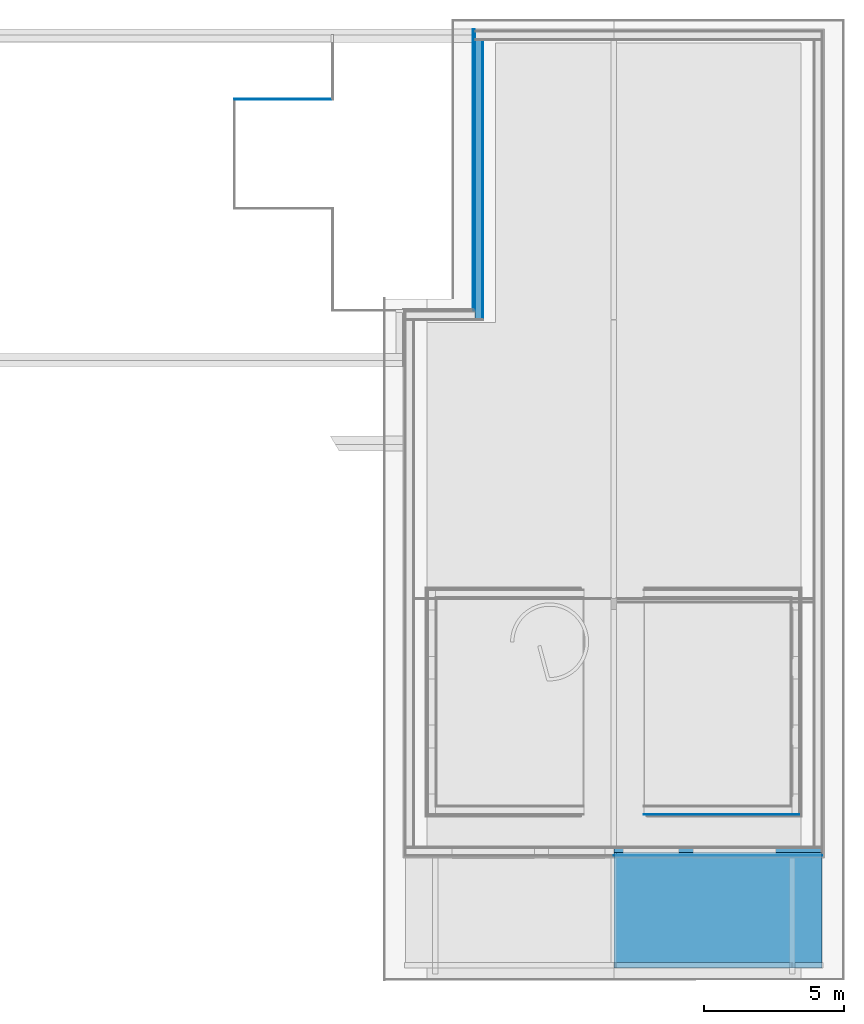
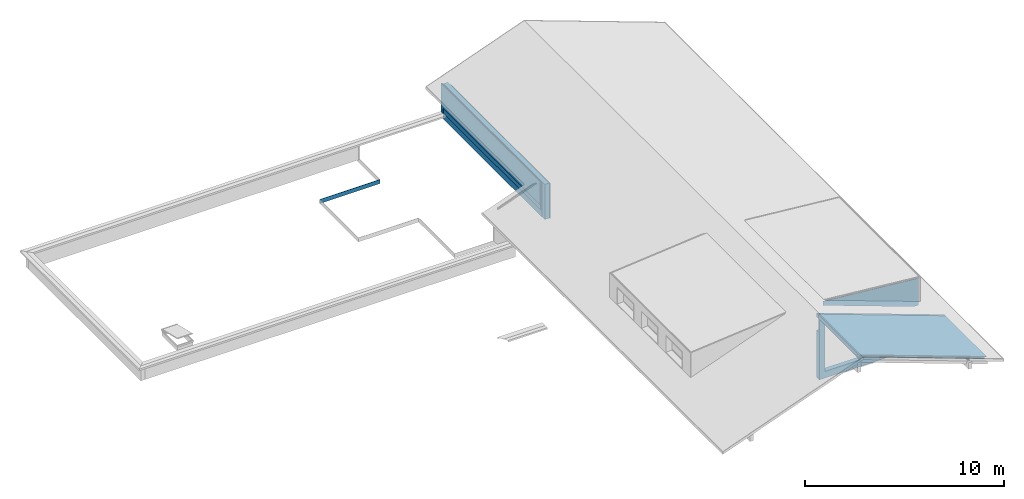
# One storey, part 7 of 12: 16 building element parts, 1 discrete accessory, 2 openings, 5 elements without a shape of their own.
"""IFC4 building model written with IfcOpenShell, lengths in millimetres."""

import ifcopenshell
import ifcopenshell.guid

model = None  # the IFC model being written
_history = None  # IfcOwnerHistory: only IFC2X3 demands one
_inside = {}  # id of a spatial element -> (the spatial element, [elements in it])
_under = {}  # id of a project, library or spatial element -> (it, [spatial elements below it])
_declared = {}  # id of a project -> (the project, [libraries it declares])
_typed = {}  # id of a type object -> (the type object, [elements of that type])
_made_of = {}  # id of a material, layer set ... -> (it, [elements and type objects made of it])


def new_model(schema):
    """Start an empty IFC model of exactly this schema.

    Asked for "IFC4X3", IfcOpenShell would pick the latest addendum, in which some entities
    have other attributes; the version numbers below select the first issue.
    IFC2X3 requires an IfcOwnerHistory on every rooted entity: one is made here for all.
    """
    global model, _history
    if schema == "IFC4X3":
        model = ifcopenshell.file(schema_version=(4, 3, 0, 0))
    else:
        model = ifcopenshell.file(schema=schema)
    _inside.clear()
    _under.clear()
    _declared.clear()
    _typed.clear()
    _made_of.clear()
    _history = None
    if model.schema == "IFC2X3":
        org = make("IfcOrganization", Name="unknown")
        user = make(
            "IfcPersonAndOrganization",
            ThePerson=make("IfcPerson", FamilyName="unknown"),
            TheOrganization=org,
        )
        app = make(
            "IfcApplication",
            ApplicationDeveloper=org,
            Version="unknown",
            ApplicationFullName="unknown",
            ApplicationIdentifier="unknown",
        )
        _history = make(
            "IfcOwnerHistory",
            OwningUser=user,
            OwningApplication=app,
            ChangeAction="ADDED",
            CreationDate=0,
        )
    return model


def make(cls, **values):
    """One entity of the class cls with the attributes given. An attribute that is None is left unset."""
    return model.create_entity(
        cls, **{name: value for name, value in values.items() if value is not None}
    )


def entity(cls, *values):
    """Any entity or typed value of the class cls, its attributes in the order of the schema. None: left unset."""
    e = model.create_entity(cls)
    for i, value in enumerate(values):
        if value is not None:
            e[i] = value
    return e


def rooted(cls, **values):
    """An entity with a GlobalId (a new one), such as an element, a storey or a relation."""
    return make(cls, GlobalId=ifcopenshell.guid.new(), OwnerHistory=_history, **values)


def si_unit(unit_type, name, prefix=None):
    """IfcSIUnit, for example si_unit("LENGTHUNIT", "METRE", prefix="MILLI")."""
    return make("IfcSIUnit", UnitType=unit_type, Prefix=prefix, Name=name)


def converted_unit(unit_type, name, factor, base, dimensions=None, offset=None):
    """IfcConversionBasedUnit, such as the inch: factor (a typed value) times the base unit."""
    return make(
        "IfcConversionBasedUnit"
        if offset is None
        else "IfcConversionBasedUnitWithOffset",
        ConversionOffset=offset,
        Dimensions=None
        if dimensions is None
        else entity("IfcDimensionalExponents", *dimensions),
        UnitType=unit_type,
        Name=name,
        ConversionFactor=make(
            "IfcMeasureWithUnit", ValueComponent=factor, UnitComponent=base
        ),
    )


def derived_unit(unit_type, elements):
    """IfcDerivedUnit: a product of units, each with its exponent."""
    return make(
        "IfcDerivedUnit",
        Elements=[
            make("IfcDerivedUnitElement", Unit=unit, Exponent=power)
            for unit, power in elements
        ],
        UnitType=unit_type,
    )


def assignment(units):
    """IfcUnitAssignment: the units of a project."""
    return None if units is None else make("IfcUnitAssignment", Units=units)


def point(xyz):
    """IfcCartesianPoint."""
    return None if xyz is None else make("IfcCartesianPoint", Coordinates=xyz)


def direction(xyz):
    """IfcDirection."""
    return None if xyz is None else make("IfcDirection", DirectionRatios=xyz)


def frame(location, z_axis=None, x_axis=None):
    """IfcAxis2Placement3D, a coordinate frame: its origin and axes. An axis left out is left unset."""
    return make(
        "IfcAxis2Placement3D",
        Location=point(location),
        Axis=direction(z_axis),
        RefDirection=direction(x_axis),
    )


def origin_with_axes():
    """The frame at (0, 0, 0) with the z axis (0, 0, 1) and the x axis (1, 0, 0) written out."""
    return frame((0.0, 0.0, 0.0), z_axis=(0.0, 0.0, 1.0), x_axis=(1.0, 0.0, 0.0))


def place(relative_to, where):
    """IfcLocalPlacement: puts the frame where relative to a parent placement (None: the world)."""
    return make(
        "IfcLocalPlacement", PlacementRelTo=relative_to, RelativePlacement=where
    )


def context(
    kind, dimensions, precision=None, world=None, true_north=None, identifier=None
):
    """IfcGeometricRepresentationContext, for example the 3D "Model" context."""
    return make(
        "IfcGeometricRepresentationContext",
        ContextIdentifier=identifier,
        ContextType=kind,
        CoordinateSpaceDimension=dimensions,
        Precision=precision,
        WorldCoordinateSystem=world,
        TrueNorth=true_north,
    )


def subcontext(parent, identifier, kind, view, scale=None):
    """IfcGeometricRepresentationSubContext, for example "Body" below "Model"."""
    return make(
        "IfcGeometricRepresentationSubContext",
        ContextIdentifier=identifier,
        ContextType=kind,
        ParentContext=parent,
        TargetScale=scale,
        TargetView=view,
    )


def project(units=None, contexts=None):
    """IfcProject with its units and contexts."""
    return rooted(
        "IfcProject",
        Name="project",
        RepresentationContexts=contexts,
        UnitsInContext=assignment(units),
    )


def spatial(cls, under=None, at=None, **own):
    """A site, building, storey or space (cls), placed at a placement, below another one or the project."""
    s = rooted(cls, ObjectPlacement=at, **own)
    if under is not None:
        _under.setdefault(under.id(), (under, []))[1].append(s)
    return s


def point_list(points):
    """IfcCartesianPointList2D or 3D."""
    cls = (
        "IfcCartesianPointList2D" if len(points[0]) == 2 else "IfcCartesianPointList3D"
    )
    return make(cls, CoordList=points)


def polygons(points, faces, closed=None, point_numbers=None):
    """IfcPolygonalFaceSet: a face is its outer loop, then its inner loops; points numbered from 1."""
    made = []
    for loops in faces:
        if len(loops) == 1:
            made.append(make("IfcIndexedPolygonalFace", CoordIndex=loops[0]))
        else:
            made.append(
                make(
                    "IfcIndexedPolygonalFaceWithVoids",
                    CoordIndex=loops[0],
                    InnerCoordIndices=loops[1:],
                )
            )
    return make(
        "IfcPolygonalFaceSet",
        Coordinates=point_list(points),
        Closed=closed,
        Faces=made,
        PnIndex=point_numbers,
    )


def shape(context_of_items, identifier, shape_type, items):
    """IfcShapeRepresentation: the items that make up one representation, for example the "Body"."""
    return make(
        "IfcShapeRepresentation",
        ContextOfItems=context_of_items,
        RepresentationIdentifier=identifier,
        RepresentationType=shape_type,
        Items=items,
    )


def material(Name=None, Category=None):
    """IfcMaterial."""
    return make("IfcMaterial", Name=Name, Category=Category)


def made_of(thing, what):
    """Note that an element or type object is made of a material, layer set ...; save() writes the relation."""
    if what is not None:
        _made_of.setdefault(what.id(), (what, []))[1].append(thing)
    return thing


def type_object(cls, material=None, **own):
    """A type object (cls), such as IfcWallType, which elements share."""
    return made_of(rooted(cls, **own), material)


def element(
    cls,
    number,
    at=None,
    inside=None,
    cuts=None,
    type_object=None,
    material=None,
    context=None,
    identifier="Body",
    shape_type=None,
    held_by="IfcProductDefinitionShape",
    body=None,
    shapes=None,
    **own,
):
    """One element of the class cls, such as IfcWall. Its Tag is "e" and its number.

    at: its placement. inside: the storey or other place that contains it. cuts: it is an
    opening in that element (IfcRelVoidsElement). A single representation is given by context,
    identifier, shape_type and body (its items); several are given by shapes. held_by: the class
    of the entity that holds the representations. save() writes the other relations.
    """
    e = rooted(cls, Tag="e%d" % number, ObjectPlacement=at, **own)
    if body is not None:
        shapes = [shape(context, identifier, shape_type, body)]
    if shapes is not None:
        e.Representation = make(held_by, Representations=shapes)
    if inside is not None:
        _inside.setdefault(inside.id(), (inside, []))[1].append(e)
    if cuts is not None:
        rooted(
            "IfcRelVoidsElement", RelatingBuildingElement=cuts, RelatedOpeningElement=e
        )
    if type_object is not None:
        _typed.setdefault(type_object.id(), (type_object, []))[1].append(e)
    return made_of(e, material)


def aggregate(whole, parts):
    """IfcRelAggregates: a whole, such as a stair, and the parts it consists of."""
    return rooted("IfcRelAggregates", RelatingObject=whole, RelatedObjects=parts)


def save(model, path):
    """Write the relations noted so far, then the file.

    IfcRelAggregates (storeys below a building ...), IfcRelContainedInSpatialStructure (elements
    in a storey), IfcRelDefinesByType, IfcRelAssociatesMaterial and IfcRelDeclares: one each for
    every whole, place, type object, material and project.
    """
    for whole, parts in _under.values():
        aggregate(whole, parts)
    for where, things in _inside.values():
        rooted(
            "IfcRelContainedInSpatialStructure",
            RelatedElements=things,
            RelatingStructure=where,
        )
    for kind, things in _typed.values():
        rooted("IfcRelDefinesByType", RelatedObjects=things, RelatingType=kind)
    for what, things in _made_of.values():
        rooted("IfcRelAssociatesMaterial", RelatedObjects=things, RelatingMaterial=what)
    for by, libraries in _declared.values():
        rooted("IfcRelDeclares", RelatingContext=by, RelatedDefinitions=libraries)
    model.write(path)


model = new_model("IFC4")

# Units and contexts
model_context = context("Model", 3, precision=0.01, world=origin_with_axes(), true_north=direction((0.0, 1.0)))
body_context = subcontext(model_context, "Body", "Model", "MODEL_VIEW")
ifc_project = project(units=[si_unit("LENGTHUNIT", "METRE", prefix="MILLI"), si_unit("AREAUNIT", "SQUARE_METRE"), si_unit("VOLUMEUNIT", "CUBIC_METRE"), converted_unit("PLANEANGLEUNIT", "DEGREE", entity("IfcPlaneAngleMeasure", 0.0174532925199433), si_unit("PLANEANGLEUNIT", "RADIAN"), dimensions=[0, 0, 0, 0, 0, 0, 0]), converted_unit("TIMEUNIT", "Year", entity("IfcTimeMeasure", 31557600.0), si_unit("TIMEUNIT", "SECOND"), dimensions=[0, 0, 1, 0, 0, 0, 0]), si_unit("MASSUNIT", "GRAM", prefix="KILO"), si_unit("THERMODYNAMICTEMPERATUREUNIT", "DEGREE_CELSIUS"), si_unit("LUMINOUSINTENSITYUNIT", "LUMEN"), si_unit("ENERGYUNIT", "JOULE", prefix="MEGA"), derived_unit("THERMALCONDUCTANCEUNIT", [(si_unit("POWERUNIT", "WATT"), 1), (si_unit("LENGTHUNIT", "METRE"), -1), (si_unit("THERMODYNAMICTEMPERATUREUNIT", "KELVIN"), -1)]), derived_unit("SPECIFICHEATCAPACITYUNIT", [(si_unit("ENERGYUNIT", "JOULE"), 1), (si_unit("MASSUNIT", "GRAM", prefix="KILO"), -1), (si_unit("THERMODYNAMICTEMPERATUREUNIT", "KELVIN"), -1)]), derived_unit("MASSDENSITYUNIT", [(si_unit("MASSUNIT", "GRAM", prefix="KILO"), 1), (si_unit("VOLUMEUNIT", "CUBIC_METRE"), -1)])], contexts=[model_context])

# Site, building, storey
site_placement = place(None, origin_with_axes())
site = spatial("IfcSite", under=ifc_project, at=site_placement, Name="Gelände", CompositionType="ELEMENT")
building_placement = place(site_placement, origin_with_axes())
building = spatial("IfcBuilding", under=site, at=building_placement, Name="Gebäude", CompositionType="ELEMENT")
storey_placement = place(building_placement, frame((0.0, 0.0, 11600.0), z_axis=(0.0, 0.0, 1.0), x_axis=(1.0, 0.0, 0.0)))
storey = spatial("IfcBuildingStorey", under=building, at=storey_placement, Name="Dachaufsicht", CompositionType="ELEMENT", Elevation=11600.0)

# Discrete accessory
ifc_material_1 = material(Name="Bewehrung")
discrete_accessory_type = type_object("IfcDiscreteAccessoryType", Name="Bewehrung 20 x 250", PredefinedType="NOTDEFINED")
discrete_accessory_placement = place(storey_placement, frame((15428.99744477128, 35447.59728131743, -5.198845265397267e-05), z_axis=(0.0, 0.0, 1.0), x_axis=(0.0, 1.0, 0.0)))
element("IfcDiscreteAccessory", 1, at=discrete_accessory_placement, inside=storey, type_object=discrete_accessory_type, material=ifc_material_1, Name="Unterzug-029", PredefinedType="NOTDEFINED", context=body_context, shape_type="Tessellation", body=[
    polygons([(0.0, 3500.000000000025, -250.0), (20.00000000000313, 3520.000000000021, -250.0), (20.00000000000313, 19.9999999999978, -250.0), (0.0, 0.0, -250.0), (0.0, 3500.000000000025, 0.0), (20.00000000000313, 3520.000000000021, 0.0), (20.00000000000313, 19.9999999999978, 0.0), (0.0, 0.0, 0.0)], [[[1, 2, 3, 4]], [[1, 5, 6, 2]], [[2, 6, 7, 3]], [[4, 3, 7, 8]], [[5, 1, 4, 8]], [[6, 5, 8, 7]]], closed=True),
])

# Wall, building element part
wall_type = type_object("IfcWallType", Name="Aussenwand Typ 01 318", PredefinedType="NOTDEFINED")
wall_1_placement = place(storey_placement, frame((32049.99744408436, 9989.670112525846, 1895.271674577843), z_axis=(0.0, 0.0, 1.0), x_axis=(-1.0, 0.0, 0.0)))
wall_1 = element("IfcWall", 2, at=wall_1_placement, inside=storey, type_object=wall_type, Name="Wand-014", PredefinedType="NOTDEFINED")
ifc_material_2 = material(Name="Grobspanplatte-OSB")
building_element_part_1_placement = place(wall_1_placement, origin_with_axes())
building_element_part_1 = element("IfcBuildingElementPart", 3, at=building_element_part_1_placement, material=ifc_material_2, Name="Grobspanplatte-OSB", PredefinedType="NOTDEFINED", context=body_context, shape_type="Tessellation", body=[
    polygons([(5527.237092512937, -18.00000000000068, 2179.750882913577), (5527.237092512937, -18.00000000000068, 2177.40811511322), (18.00000000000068, -18.00000000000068, 1659.539828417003), (18.00000000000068, -18.00000000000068, 0.0), (278.0000000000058, -18.00000000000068, 0.0), (5549.900825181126, -18.00000000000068, 1918.81497836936), (5549.900825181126, -18.00000000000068, 2179.750882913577), (5527.237092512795, 1.953992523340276e-10, 2179.750882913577), (5527.237092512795, 0.0, 2177.408115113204), (18.00000000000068, 0.0, 1659.539828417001), (18.00000000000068, 0.0, 0.0), (278.0000000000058, 0.0, 0.0), (5549.900825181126, 0.0, 1918.81497836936), (5549.900825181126, 0.0, 2179.750882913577)], [[[1, 2, 3, 4, 5, 6, 7]], [[2, 1, 8, 9]], [[10, 3, 2, 9]], [[3, 10, 11, 4]], [[11, 12, 5, 4]], [[12, 13, 6, 5]], [[14, 7, 6, 13]], [[8, 1, 7, 14]], [[9, 8, 14, 13, 12, 11, 10]]], closed=True),
])
aggregate(wall_1, [building_element_part_1])

# Curtain wall, building element parts
curtain_wall_type = type_object("IfcCurtainWallType", Name="Fassade Typ 02 - Vertikale Schalung 71", PredefinedType="NOTDEFINED")
curtain_wall_placement = place(storey_placement, frame((20397.99744477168, 27978.59728131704, 930.9999999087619), z_axis=(0.0, 0.0, 1.0), x_axis=(0.0, 1.0, 0.0)))
curtain_wall = element("IfcCurtainWall", 4, at=curtain_wall_placement, inside=storey, type_object=curtain_wall_type, Name="Wand-014", PredefinedType="NOTDEFINED")
ifc_material_3 = material(Name="Falzschalung vertikal")
building_element_part_2_placement = place(curtain_wall_placement, origin_with_axes())
building_element_part_2 = element("IfcBuildingElementPart", 5, at=building_element_part_2_placement, material=ifc_material_3, Name="Falzschalung vertikal", PredefinedType="NOTDEFINED", context=body_context, shape_type="Tessellation", body=[
    polygons([(9759.000000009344, -21.00000000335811, 2.526755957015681), (9968.999999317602, -21.00000000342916, 2.526755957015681), (9968.999999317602, -21.00000000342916, 1728.36606202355), (0.0, -21.0000000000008, 1728.36606202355), (0.0, -21.0000000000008, 321.0000000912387), (9759.000000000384, -21.00000000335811, 321.0000000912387), (9968.99999931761, -3.428368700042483e-09, 2.526755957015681), (9759.000000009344, -3.357314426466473e-09, 2.526755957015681), (9968.99999931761, -3.428368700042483e-09, 1728.36606202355), (0.0, 0.0, 1728.36606202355), (0.0, 0.0, 321.0000000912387), (9759.000000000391, -3.357314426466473e-09, 321.0000000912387)], [[[1, 2, 3, 4, 5, 6]], [[7, 2, 1, 8]], [[2, 7, 9, 3]], [[10, 4, 3, 9]], [[10, 11, 5, 4]], [[12, 6, 5, 11]], [[8, 1, 6, 12]], [[7, 8, 12, 11, 10, 9]]], closed=True),
])
ifc_material_4 = material(Name="Lattenrost horizontal")
building_element_part_3_placement = place(curtain_wall_placement, origin_with_axes())
building_element_part_3 = element("IfcBuildingElementPart", 6, at=building_element_part_3_placement, material=ifc_material_4, Name="Lattenrost horizontal", PredefinedType="NOTDEFINED", context=body_context, shape_type="Tessellation", body=[
    polygons([(9900.700001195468, -46.00000000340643, 70.65087697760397), (9900.700001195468, -46.00000000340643, 40.48212695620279), (9968.999999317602, -46.00000000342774, 33.46251193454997), (9968.999999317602, -46.00000000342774, 1728.36606202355), (-21.00000000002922, -45.99999999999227, 1728.36606202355), (-21.00000000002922, -45.99999999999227, 0.0), (9968.999999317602, -46.00000000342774, 0.0), (9968.999999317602, -46.00000000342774, 30.63225427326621), (9898.000000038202, -46.00000000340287, 37.64117377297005), (9898.000000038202, -46.00000000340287, 70.65087697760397), (9900.700001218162, -31.00000000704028, 70.65087697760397), (9900.700001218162, -31.00000000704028, 40.48212695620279), (9968.999999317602, -31.00000011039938, 33.46251193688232), (9968.999999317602, -31.00000011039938, 30.6322542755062), (9968.999999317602, -31.00000000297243, 0.0), (9968.999999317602, -31.00000000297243, 2.526755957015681), (9968.99999931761, -21.00000000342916, 2.526755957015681), (9968.99999931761, -21.00000000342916, 1728.36606202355), (-21.00000000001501, -20.99999999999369, 1728.36606202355), (-21.00000000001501, -20.99999999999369, 21.00000009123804), (-21.00000000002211, -30.9999999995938, 21.00000009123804), (-21.00000000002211, -30.9999999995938, 0.0), (9759.000000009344, -31.00000000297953, 0.0), (9898.000000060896, -31.00000000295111, 37.64117377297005), (9898.000000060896, -31.00000000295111, 70.65087697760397), (9759.000000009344, -31.00000000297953, 2.526755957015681), (9759.000000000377, -31.00000000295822, 21.00000009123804), (9759.000000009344, -21.00000000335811, 2.526755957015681), (9759.000000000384, -21.00000000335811, 21.00000009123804)], [[[1, 2, 3, 4, 5, 6, 7, 8, 9, 10]], [[2, 1, 11, 12]], [[13, 3, 2, 12]], [[14, 8, 7, 15, 16, 17, 18, 4, 3, 13]], [[19, 5, 4, 18]], [[20, 21, 22, 6, 5, 19]], [[23, 15, 7, 6, 22]], [[9, 8, 14, 24]], [[10, 9, 24, 25]], [[1, 10, 25, 11]], [[14, 13, 12, 11, 25, 24]], [[26, 16, 15, 23, 22, 21, 27]], [[17, 16, 26, 28]], [[17, 28, 29, 20, 19, 18]], [[27, 21, 20, 29]], [[28, 26, 27, 29]]], closed=True),
])
ifc_material_5 = material(Name="Lattenrost vertikal")
building_element_part_4_placement = place(curtain_wall_placement, origin_with_axes())
building_element_part_4 = element("IfcBuildingElementPart", 7, at=building_element_part_4_placement, material=ifc_material_5, Name="Lattenrost vertikal", PredefinedType="NOTDEFINED", context=body_context, shape_type="Tessellation", body=[
    polygons([(9900.700001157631, -71.00000000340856, 70.65087697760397), (9900.700001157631, -71.00000000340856, 40.48212695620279), (9968.999999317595, -71.00000000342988, 33.46251193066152), (9968.999999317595, -71.00000000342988, 1728.36606202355), (-46.00000000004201, -70.9999999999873, 1728.36606202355), (-46.00000000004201, -70.9999999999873, 0.0), (9968.999999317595, -71.00000000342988, 0.0), (9968.999999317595, -71.00000000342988, 30.63225426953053), (9898.000000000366, -71.000000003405, 37.64117377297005), (9898.000000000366, -71.000000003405, 70.65087697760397), (9900.700001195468, -46.00000000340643, 70.65087697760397), (9900.700001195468, -46.00000000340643, 40.48212695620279), (9968.99999931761, -46.00000000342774, 33.46251193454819), (9968.99999931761, -46.00000000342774, 1728.36606202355), (-46.0000000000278, -45.99999999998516, 1728.36606202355), (-46.0000000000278, -45.99999999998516, 0.0), (9968.99999931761, -46.00000000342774, 0.0), (9968.99999931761, -46.00000000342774, 30.63225427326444), (9898.000000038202, -46.00000000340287, 37.64117377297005), (9898.000000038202, -46.00000000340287, 70.65087697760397)], [[[1, 2, 3, 4, 5, 6, 7, 8, 9, 10]], [[2, 1, 11, 12]], [[13, 3, 2, 12]], [[3, 13, 14, 4]], [[5, 4, 14, 15]], [[6, 5, 15, 16]], [[16, 17, 7, 6]], [[18, 8, 7, 17]], [[9, 8, 18, 19]], [[10, 9, 19, 20]], [[1, 10, 20, 11]], [[19, 18, 17, 16, 15, 14, 13, 12, 11, 20]]], closed=True),
])
aggregate(curtain_wall, [building_element_part_2, building_element_part_3, building_element_part_4])

# Roof, building element parts
roof_type = type_object("IfcRoofType", Name="Steildach Typ 01 255", PredefinedType="NOTDEFINED")
roof_placement = place(storey_placement, frame((32839.99744477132, 4618.597281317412, 1505.760360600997), z_axis=(0.0, 0.0, 1.0), x_axis=(0.000541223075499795, 0.9999998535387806, 0.0)))
roof = element("IfcRoof", 8, at=roof_placement, inside=storey, type_object=roof_type, Name="Dach-011", PredefinedType="NOTDEFINED")
ifc_material_6 = material(Name="Balken Konstruktion gedämmt")
building_element_part_5_placement = place(roof_placement, origin_with_axes())
building_element_part_5 = element("IfcBuildingElementPart", 9, at=building_element_part_5_placement, material=ifc_material_6, Name="Balken Konstruktion gedämmt", PredefinedType="NOTDEFINED", context=body_context, shape_type="Tessellation", body=[
    polygons([(-99.9875466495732, -0.05411552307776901, 228.8178540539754), (99.9999853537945, 0.05412236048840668, 228.8178540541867), (99.9999853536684, 0.05412259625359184, 37.26592105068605), (4018.029595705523, 2.174650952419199, 38.03773025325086), (4017.994424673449, 2.174631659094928, 240.2315000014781), (-99.9893908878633, -0.05411653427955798, 239.4203019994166), (95.98898114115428, 7411.05303722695, 2926.201260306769), (-103.9985520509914, 7410.944799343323, 2926.201260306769), (99.48203485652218, 957.0540081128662, 385.5853935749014), (95.98898114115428, 7411.053037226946, 2734.64893242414), (99.45942398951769, 998.8313541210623, 400.7911039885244), (99.48203485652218, 957.0540081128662, 400.7911039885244), (-100.4948404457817, 998.831354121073, 400.7911039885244), (4014.018591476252, 7413.173566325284, 2735.420741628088), (-100.4721710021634, 956.9457882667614, 385.5460047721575), (4013.983420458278, 7413.173547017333, 2937.614511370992), (-104.0003962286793, 7410.944798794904, 2936.803313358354), (-100.4748228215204, 956.9457868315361, 400.7911039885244)], [[[1, 2, 3, 4, 5, 6]], [[7, 2, 1, 8]], [[9, 3, 2, 7, 10, 11, 12]], [[13, 11, 10, 14, 4, 3, 9, 15]], [[14, 16, 5, 4]], [[6, 5, 16, 17]], [[17, 8, 1, 6]], [[10, 7, 8, 17, 16, 14]], [[11, 13, 18, 12]], [[18, 15, 9, 12]], [[15, 18, 13]]], closed=True),
])
ifc_material_7 = material(Name="Dreischichtplatte-DSP")
building_element_part_6_placement = place(roof_placement, origin_with_axes())
building_element_part_6 = element("IfcBuildingElementPart", 10, at=building_element_part_6_placement, material=ifc_material_7, Name="Dreischichtplatte-DSP", PredefinedType="NOTDEFINED", context=body_context, shape_type="Tessellation", body=[
    polygons([(-99.99494412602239, -0.05411957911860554, 271.3456333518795), (4017.98887135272, 2.174628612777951, 272.1568313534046), (4013.977867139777, 7413.173543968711, 2969.539842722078), (-104.0059494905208, 7410.944795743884, 2968.728644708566), (4017.994424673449, 2.174631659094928, 240.2315000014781), (-99.9893908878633, -0.05411653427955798, 239.4203019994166), (4013.983420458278, 7413.173547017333, 2937.614511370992), (-104.0003962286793, 7410.944798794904, 2936.803313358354)], [[[1, 2, 3, 4]], [[5, 2, 1, 6]], [[7, 3, 2, 5]], [[8, 4, 3, 7]], [[6, 1, 4, 8]], [[6, 8, 7, 5]]], closed=True),
])
ifc_material_8 = material(Name="Gipskartonplatte GKP")
building_element_part_7_placement = place(roof_placement, origin_with_axes())
building_element_part_7 = element("IfcBuildingElementPart", 11, at=building_element_part_7_placement, material=ifc_material_8, Name="Gipskartonplatte GKP", PredefinedType="NOTDEFINED", context=body_context, shape_type="Tessellation", body=[
    polygons([(-100.5123069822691, 1035.378909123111, 400.7911039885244), (-100.4698571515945, 956.9457895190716, 372.2437830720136), (99.48203485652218, 957.0540081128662, 372.2831714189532), (99.9999853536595, 0.05412261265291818, 23.96369890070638), (4018.031909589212, 2.174652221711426, 24.73550855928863), (4014.020905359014, 7413.173567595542, 2722.118519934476), (95.98898114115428, 7411.053037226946, 2721.34671027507), (96.0234381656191, 7347.387940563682, 2698.17450985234), (-103.9285132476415, 7347.387940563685, 2698.17450985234), (-103.9087893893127, 7310.944833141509, 2684.910303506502), (96.04310344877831, 7311.053051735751, 2684.949691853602), (99.43964360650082, 1035.378909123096, 400.7911039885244), (-100.5297735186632, 1071.926464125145, 400.7911039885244), (-100.4675433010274, 956.9457907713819, 358.9415613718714), (99.48203485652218, 957.0540081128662, 358.9809492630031), (99.99998535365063, 0.05412262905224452, 10.66147675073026), (4018.034223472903, 2.174653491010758, 11.43328686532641), (4014.023219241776, 7413.173568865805, 2708.816298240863), (95.98898114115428, 7411.053037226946, 2708.044488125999), (96.00365778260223, 7383.935495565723, 2698.17450985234), (-103.9459797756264, 7383.935495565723, 2698.17450985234), (-103.906475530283, 7310.944834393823, 2671.608081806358), (96.04310344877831, 7311.053051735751, 2671.647469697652), (99.41986322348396, 1071.926464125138, 400.7911039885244)], [[[1, 2, 3, 4, 5, 6, 7, 8, 9, 10, 11, 12]], [[13, 14, 2, 1]], [[15, 3, 2, 14]], [[15, 16, 4, 3]], [[5, 4, 16, 17]], [[18, 6, 5, 17]], [[18, 19, 7, 6]], [[20, 8, 7, 19]], [[21, 9, 8, 20]], [[21, 22, 10, 9]], [[23, 11, 10, 22]], [[24, 12, 11, 23]], [[13, 1, 12, 24]], [[16, 15, 14, 13, 24, 23, 22, 21, 20, 19, 18, 17]]], closed=True),
])
building_element_part_8_placement = place(roof_placement, origin_with_axes())
building_element_part_8 = element("IfcBuildingElementPart", 12, at=building_element_part_8_placement, material=ifc_material_8, Name="Gipskartonplatte GKP", PredefinedType="NOTDEFINED", context=body_context, shape_type="Tessellation", body=[
    polygons([(-100.4948404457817, 998.831354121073, 400.7911039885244), (-100.4721710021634, 956.9457882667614, 385.5460047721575), (99.48203485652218, 957.0540081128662, 385.5853935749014), (99.9999853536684, 0.05412259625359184, 37.26592105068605), (4018.029595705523, 2.174650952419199, 38.03773025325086), (4014.018591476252, 7413.173566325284, 2735.420741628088), (95.98898114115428, 7411.053037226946, 2734.64893242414), (99.45942398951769, 998.8313541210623, 400.7911039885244), (-100.5123069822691, 1035.378909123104, 400.7911039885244), (-100.4698571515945, 956.9457895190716, 372.2437830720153), (99.48203485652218, 957.0540081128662, 372.2831714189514), (99.9999853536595, 0.05412261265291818, 23.96369890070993), (4018.031909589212, 2.174652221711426, 24.73550855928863), (4014.020905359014, 7413.173567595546, 2722.118519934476), (95.98898114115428, 7411.053037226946, 2721.346710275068), (99.43964360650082, 1035.3789091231, 400.7911039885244), (96.0234381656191, 7347.387940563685, 2698.17450985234), (96.04310344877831, 7311.053051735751, 2698.17450985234), (96.04310344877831, 7311.053051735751, 2684.9496918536), (-103.9087893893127, 7310.944833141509, 2684.910303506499), (-103.9285132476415, 7347.387940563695, 2698.17450985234), (-103.9110966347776, 7310.944831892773, 2698.17450985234)], [[[1, 2, 3, 4, 5, 6, 7, 8]], [[9, 10, 2, 1]], [[11, 3, 2, 10]], [[11, 12, 4, 3]], [[5, 4, 12, 13]], [[14, 6, 5, 13]], [[14, 15, 7, 6]], [[16, 8, 7, 15, 17, 18, 19]], [[9, 1, 8, 16]], [[12, 11, 10, 9, 16, 19, 20, 21, 17, 15, 14, 13]], [[17, 21, 22, 18]], [[22, 20, 19, 18]], [[20, 22, 21]]], closed=True),
])
ifc_material_9 = material(Name="Kalkzementputz Aussen")
building_element_part_9_placement = place(roof_placement, origin_with_axes())
building_element_part_9 = element("IfcBuildingElementPart", 13, at=building_element_part_9_placement, material=ifc_material_9, Name="Kalkzementputz Aussen", PredefinedType="NOTDEFINED", context=body_context, shape_type="Tessellation", body=[
    polygons([(-100.5297735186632, 1071.926464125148, 400.7911039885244), (-100.4675433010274, 956.9457907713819, 358.9415613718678), (99.48203485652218, 957.0540081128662, 358.980949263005), (99.99998535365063, 0.05412262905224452, 10.66147675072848), (4018.034223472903, 2.174653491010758, 11.43328686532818), (4014.023219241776, 7413.173568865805, 2708.816298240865), (95.98898114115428, 7411.053037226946, 2708.044488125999), (96.00365778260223, 7383.935495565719, 2698.17450985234), (-103.9459797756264, 7383.935495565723, 2698.17450985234), (-103.906475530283, 7310.944834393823, 2671.608081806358), (96.04310344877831, 7311.053051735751, 2671.647469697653), (99.41986322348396, 1071.926464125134, 400.7911039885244), (-100.5437467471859, 1101.164507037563, 400.7911039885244), (-100.4656922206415, 956.9457917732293, 348.2997844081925), (99.48203485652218, 957.0540081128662, 348.3391719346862), (99.99998535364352, 0.05412264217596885, 0.01969942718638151), (4018.036074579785, 2.174654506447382, 0.7915099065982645), (4014.025070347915, 7413.173569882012, 2698.174521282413), (-103.9588878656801, 7410.944820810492, 2698.17450985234), (95.98898114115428, 7411.053037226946, 2698.17450985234), (-103.9587467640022, 7410.944821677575, 2697.363323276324), (-103.9046244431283, 7310.944835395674, 2660.966304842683), (96.04310344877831, 7311.053051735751, 2661.005692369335), (99.40403891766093, 1101.164507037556, 400.7911039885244)], [[[1, 2, 3, 4, 5, 6, 7, 8, 9, 10, 11, 12]], [[13, 14, 2, 1]], [[15, 3, 2, 14]], [[15, 16, 4, 3]], [[5, 4, 16, 17]], [[18, 6, 5, 17]], [[19, 20, 7, 6, 18, 21]], [[20, 8, 7]], [[19, 9, 8, 20]], [[21, 22, 10, 9, 19]], [[23, 11, 10, 22]], [[24, 12, 11, 23]], [[13, 1, 12, 24]], [[16, 15, 14, 13, 24, 23, 22, 21, 18, 17]]], closed=True),
])
aggregate(roof, [building_element_part_5, building_element_part_6, building_element_part_7, building_element_part_8, building_element_part_9])

# Wall, building element parts
wall_2_placement = place(storey_placement, frame((20468.99744477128, 37876.59728131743, 500.0), z_axis=(0.0, 0.0, 1.0), x_axis=(0.0, -1.0, 0.0)))
wall_2 = element("IfcWall", 14, at=wall_2_placement, inside=storey, type_object=wall_type, Name="Wand-014", PredefinedType="NOTDEFINED")
ifc_material_10 = material(Name="Verputz Innen")
building_element_part_10_placement = place(wall_2_placement, origin_with_axes())
building_element_part_10 = element("IfcBuildingElementPart", 15, at=building_element_part_10_placement, material=ifc_material_10, Name="Verputz Innen", PredefinedType="NOTDEFINED", context=body_context, shape_type="Tessellation", body=[
    polygons([(10286.99999999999, 307.9999999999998, 0.0), (307.9999999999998, 307.9999999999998, 0.0), (307.9999999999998, 318.0000000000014, 0.0), (10286.99999999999, 317.9999999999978, 0.0), (10286.99999999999, 307.9999999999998, 2165.91752631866), (307.9999999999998, 307.9999999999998, 2165.91752631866), (307.9999999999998, 318.0000000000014, 2165.91752631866), (10286.99999999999, 317.9999999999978, 2165.91752631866)], [[[1, 2, 3, 4]], [[5, 6, 2, 1]], [[3, 2, 6, 7]], [[4, 3, 7, 8]], [[4, 8, 5, 1]], [[8, 7, 6, 5]]], closed=True),
])
ifc_material_11 = material(Name="Gipsfaserplatte GFP")
building_element_part_11_placement = place(wall_2_placement, origin_with_axes())
building_element_part_11 = element("IfcBuildingElementPart", 16, at=building_element_part_11_placement, material=ifc_material_11, Name="Gipsfaserplatte GFP", PredefinedType="NOTDEFINED", context=body_context, shape_type="Tessellation", body=[
    polygons([(10276.99999999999, 292.9999999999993, 0.0), (292.9999999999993, 292.9999999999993, 0.0), (292.9999999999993, 307.9999999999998, 0.0), (10276.99999999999, 307.9999999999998, 0.0), (10276.99999999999, 292.9999999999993, 2165.91752631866), (292.9999999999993, 292.9999999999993, 2165.91752631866), (292.9999999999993, 307.9999999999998, 2165.91752631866), (10276.99999999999, 307.9999999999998, 2165.91752631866)], [[[1, 2, 3, 4]], [[5, 6, 2, 1]], [[3, 2, 6, 7]], [[4, 3, 7, 8]], [[4, 8, 5, 1]], [[8, 7, 6, 5]]], closed=True),
])
building_element_part_12_placement = place(wall_2_placement, origin_with_axes())
building_element_part_12 = element("IfcBuildingElementPart", 17, at=building_element_part_12_placement, material=ifc_material_11, Name="Gipsfaserplatte GFP", PredefinedType="NOTDEFINED", context=body_context, shape_type="Tessellation", body=[
    polygons([(10261.99999999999, 277.9999999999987, 0.0), (277.9999999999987, 277.9999999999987, 0.0), (277.9999999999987, 292.9999999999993, 0.0), (10261.99999999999, 292.9999999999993, 0.0), (10261.99999999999, 277.9999999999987, 2165.91752631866), (277.9999999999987, 277.9999999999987, 2165.91752631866), (277.9999999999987, 292.9999999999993, 2165.91752631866), (10261.99999999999, 292.9999999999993, 2165.91752631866)], [[[1, 2, 3, 4]], [[5, 6, 2, 1]], [[3, 2, 6, 7]], [[4, 3, 7, 8]], [[4, 8, 5, 1]], [[8, 7, 6, 5]]], closed=True),
])
ifc_material_12 = material(Name="Ständer Konstruktion gedämmt")
building_element_part_13_placement = place(wall_2_placement, origin_with_axes())
building_element_part_13 = element("IfcBuildingElementPart", 18, at=building_element_part_13_placement, material=ifc_material_12, Name="Ständer Konstruktion gedämmt", PredefinedType="NOTDEFINED", context=body_context, shape_type="Tessellation", body=[
    polygons([(10246.99999999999, 17.99999999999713, 0.0), (18.00000000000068, 18.00000000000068, 0.0), (18.00000000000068, 277.9999999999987, 0.0), (10246.99999999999, 277.9999999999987, 0.0), (10246.99999999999, 17.99999999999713, 2165.91752631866), (18.00000000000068, 18.00000000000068, 2165.91752631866), (18.00000000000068, 277.9999999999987, 2165.91752631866), (10246.99999999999, 277.9999999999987, 2165.91752631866)], [[[1, 2, 3, 4]], [[5, 6, 2, 1]], [[3, 2, 6, 7]], [[4, 3, 7, 8]], [[4, 8, 5, 1]], [[8, 7, 6, 5]]], closed=True),
])
building_element_part_14_placement = place(wall_2_placement, origin_with_axes())
building_element_part_14 = element("IfcBuildingElementPart", 19, at=building_element_part_14_placement, material=ifc_material_2, Name="Grobspanplatte-OSB", PredefinedType="NOTDEFINED", context=body_context, shape_type="Tessellation", body=[
    polygons([(9986.999999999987, 0.0, 0.0), (0.0, 0.0, 0.0), (0.0, 18.00000000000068, 0.0), (9986.999999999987, 17.99999999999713, 0.0), (9986.999999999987, 0.0, 2165.91752631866), (0.0, 0.0, 2165.91752631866), (0.0, 18.00000000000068, 2165.91752631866), (9986.999999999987, 17.99999999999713, 2165.91752631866)], [[[1, 2, 3, 4]], [[5, 6, 2, 1]], [[3, 2, 6, 7]], [[4, 3, 7, 8]], [[4, 8, 5, 1]], [[8, 7, 6, 5]]], closed=True),
])
aggregate(wall_2, [building_element_part_10, building_element_part_11, building_element_part_12, building_element_part_13, building_element_part_14])

# Wall, openings, building element parts
wall_3_placement = place(storey_placement, frame((32857.99744477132, 8518.597281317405, 500.0), z_axis=(0.0, 0.0, 1.0), x_axis=(-1.0, 0.0, 0.0)))
wall_3 = element("IfcWall", 20, at=wall_3_placement, inside=storey, type_object=wall_type, Name="Wand-014", PredefinedType="NOTDEFINED")
opening_1_placement = place(wall_3_placement, frame((6108.000000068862, 0.0, 539.9999999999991), z_axis=(0.0, 0.0, 1.0), x_axis=(1.0, 0.0, 0.0)))
element("IfcOpeningElement", 21, at=opening_1_placement, cuts=wall_3, Name="Fenster-004", context=body_context, identifier="Reference", shape_type="Tessellation", body=[
    polygons([(-1000.0, -249.9999999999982, -140.0000000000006), (-1000.0, -249.9999999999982, 2139.657207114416), (-1000.0, 1.000000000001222, 2139.657207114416), (-1000.0, 1.000000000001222, -140.0000000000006), (1000.0, -249.9999999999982, 2857.839025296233), (-1100.000000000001, -249.9999999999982, -140.0000000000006), (-1100.000000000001, -249.9999999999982, 2209.999999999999), (1100.000000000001, -249.9999999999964, 3000.0), (1100.000000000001, -249.9999999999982, -140.0000000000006), (1000.0, -249.9999999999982, -140.0000000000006), (1000.0, 1.000000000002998, 2857.839025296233), (1000.0, 1.000000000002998, -140.0000000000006), (1100.000000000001, -319.0000000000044, -140.0000000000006), (-1100.000000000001, -319.0000000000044, -140.0000000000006), (-1100.000000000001, -319.0000000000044, 2209.999999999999), (1100.000000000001, -319.0000000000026, 3000.0)], [[[1, 2, 3, 4]], [[5, 2, 1, 6, 7, 8, 9, 10]], [[2, 5, 11, 3]], [[11, 12, 4, 3]], [[10, 1, 4, 12]], [[1, 10, 9, 13, 14, 6]], [[7, 6, 14, 15]], [[8, 7, 15, 16]], [[9, 8, 16, 13]], [[5, 10, 12, 11]], [[15, 14, 13, 16]]], closed=True),
])
opening_2_placement = place(wall_3_placement, frame((3133.000000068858, 0.0, 539.9999999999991), z_axis=(0.0, 0.0, 1.0), x_axis=(1.0, 0.0, 0.0)))
element("IfcOpeningElement", 22, at=opening_2_placement, cuts=wall_3, Name="Fenster-004", context=body_context, identifier="Reference", shape_type="Tessellation", body=[
    polygons([(-1475.000000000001, -250.0, -140.0000000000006), (-1475.000000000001, -250.0, 889.8431651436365), (-1475.000000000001, 0.9999999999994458, 889.8431651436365), (-1475.000000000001, 0.9999999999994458, -140.0000000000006), (1475.000000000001, -250.0000000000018, 1957.462212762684), (-1574.999999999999, -250.0, -140.0000000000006), (-1574.999999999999, -250.0, 960.0000000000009), (1574.999999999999, -250.0000000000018, 2100.0), (1574.999999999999, -250.0000000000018, -140.0000000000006), (1475.000000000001, -250.0000000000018, -140.0000000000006), (1475.000000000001, 0.9999999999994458, 1957.462212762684), (1475.000000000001, 0.9999999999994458, -140.0000000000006), (1574.999999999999, -319.0000000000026, -140.0000000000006), (-1574.999999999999, -319.0000000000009, -140.0000000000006), (-1574.999999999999, -319.0000000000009, 960.0000000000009), (1574.999999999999, -319.0000000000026, 2100.0)], [[[1, 2, 3, 4]], [[5, 2, 1, 6, 7, 8, 9, 10]], [[2, 5, 11, 3]], [[11, 12, 4, 3]], [[10, 1, 4, 12]], [[1, 10, 9, 13, 14, 6]], [[7, 6, 14, 15]], [[8, 7, 15, 16]], [[9, 8, 16, 13]], [[5, 10, 12, 11]], [[15, 14, 13, 16]]], closed=True),
])
building_element_part_15_placement = place(wall_3_placement, origin_with_axes())
building_element_part_15 = element("IfcBuildingElementPart", 23, at=building_element_part_15_placement, material=ifc_material_2, Name="Grobspanplatte-OSB", PredefinedType="NOTDEFINED", context=body_context, shape_type="Tessellation", body=[
    polygons([(7429.000001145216, -17.99999995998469, 3703.915175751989), (18.00000034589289, -18.00000000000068, 1006.532164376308), (18.00000031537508, -18.00000000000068, 1043.778385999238), (18.00000029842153, -18.00000000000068, 1245.97216267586), (18.00000004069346, -17.99999407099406, 1267.275017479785), (1.219980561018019e-06, -17.99999405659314, 1260.723553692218), (1.78879844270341e-06, -18.00000000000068, 0.0), (7429.000000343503, -17.99999999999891, 0.0), (7108.00000006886, -17.99999999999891, 399.9999999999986), (5108.00000006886, -18.00000000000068, 399.9999999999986), (5108.00000006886, -18.00000000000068, 2679.657207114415), (7108.00000006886, -17.99999999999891, 3397.839025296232), (4608.000000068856, -17.99999405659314, 2497.462212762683), (4608.000000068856, -17.99999405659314, 399.9999999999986), (1658.000000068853, -17.99999405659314, 399.9999999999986), (1658.000000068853, -17.99999405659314, 1429.843165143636), (7429.000001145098, 0.0, 3703.911629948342), (18.00000034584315, 0.0, 1006.528618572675), (18.00000031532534, 0.0, 1043.77484019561), (18.00000029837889, 0.0, 1245.968616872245), (18.00000004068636, 1.886398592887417e-05, 1267.275017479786), (9.244160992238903e-09, 1.890980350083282e-05, 1260.72355325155), (1.78879844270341e-06, 0.0, 0.0), (7429.000000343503, 0.0, 0.0), (7108.00000006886, 1.890980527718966e-05, 399.9999999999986), (5108.00000006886, 1.890980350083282e-05, 399.9999999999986), (5108.00000006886, 1.890980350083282e-05, 2679.657207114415), (7108.00000006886, 1.890980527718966e-05, 3397.839025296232), (4608.000000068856, 0.0, 399.9999999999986), (4608.000000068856, 0.0, 2497.462212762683), (1658.000000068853, 0.0, 399.9999999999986), (1658.000000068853, 0.0, 1429.843165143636)], [[[1, 2, 3, 4, 5, 6, 7, 8], [9, 10, 11, 12], [13, 14, 15, 16]], [[2, 1, 17, 18]], [[3, 2, 18, 19]], [[3, 19, 20, 4]], [[4, 20, 21, 5]], [[5, 21, 22, 6]], [[22, 23, 7, 6]], [[24, 8, 7, 23]], [[17, 1, 8, 24]], [[10, 9, 25, 26]], [[11, 10, 26, 27]], [[12, 11, 27, 28]], [[9, 12, 28, 25]], [[29, 14, 13, 30]], [[31, 15, 14, 29]], [[32, 16, 15, 31]], [[30, 13, 16, 32]], [[18, 17, 24, 23, 22, 21, 20, 19], [25, 28, 27, 26], [31, 29, 30, 32]]], closed=True),
])
building_element_part_16_placement = place(wall_3_placement, origin_with_axes())
building_element_part_16 = element("IfcBuildingElementPart", 24, at=building_element_part_16_placement, material=ifc_material_12, Name="Ständer Konstruktion gedämmt", PredefinedType="NOTDEFINED", context=body_context, shape_type="Tessellation", body=[
    polygons([(7429.000000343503, -17.99999999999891, 0.0), (7429.000000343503, -17.99999999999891, 2903.934870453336), (7429.000000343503, -277.9999999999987, 2903.934870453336), (7429.000000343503, -277.9999999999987, 0.0), (18.00000000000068, -18.00000000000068, 0.0), (18.00000034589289, -17.99999131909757, 1006.532164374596), (7329.000000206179, -17.999981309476, 3667.518157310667), (7329.000000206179, -17.999981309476, 2903.934870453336), (4608.000000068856, -18.00000000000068, 399.9999999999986), (4608.000000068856, -18.00000000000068, 2497.462212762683), (1658.000000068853, -18.00000000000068, 1429.843165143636), (1658.000000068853, -18.00000000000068, 399.9999999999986), (7108.00000006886, -17.999981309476, 399.9999999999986), (7108.00000006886, -17.999981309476, 3397.839025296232), (5108.00000006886, -17.99998130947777, 2679.657207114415), (5108.00000006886, -17.99998130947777, 399.9999999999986), (7329.000000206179, -277.999994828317, 2903.934870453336), (7329.000000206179, -277.999994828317, 3703.934870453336), (7429.000000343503, -277.9999999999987, 3703.934870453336), (7429.000000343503, -277.9999999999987, 3964.658423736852), (18.00000005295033, -277.9999948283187, 1267.275017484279), (18.00000000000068, -277.9999999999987, 0.0), (4708.000000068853, -278.0000000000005, 2639.999999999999), (4708.000000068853, -278.0000000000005, 399.9999999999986), (1558.000000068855, -278.0000000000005, 399.9999999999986), (1558.000000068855, -278.0000000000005, 1500.0), (7208.000000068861, -277.999994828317, 3539.999999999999), (7208.000000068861, -277.999994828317, 399.9999999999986), (5008.000000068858, -277.9999948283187, 399.9999999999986), (5008.000000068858, -277.9999948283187, 2749.999999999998), (18.00000031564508, -118.0324980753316, 1267.275017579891), (18.00000033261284, -118.0348119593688, 1017.193647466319), (18.00000034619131, -118.0366630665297, 1006.551870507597), (7329.000000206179, -118.0366630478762, 3667.537863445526), (7329.000000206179, -118.0324980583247, 3703.934870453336), (4608.000000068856, -250.0000000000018, 399.9999999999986), (4608.000000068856, -250.0000000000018, 2497.462212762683), (1658.000000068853, -250.0, 1429.843165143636), (1658.000000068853, -250.0, 399.9999999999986), (7108.00000006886, -250.0, 399.9999999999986), (7108.00000006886, -250.0, 3397.839025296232), (5108.00000006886, -250.0, 2679.657207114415), (5108.00000006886, -250.0, 399.9999999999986), (7429.000001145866, -118.0366630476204, 3703.934881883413), (7429.00000113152, -118.034811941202, 3714.576658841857), (7429.000000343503, -118.032498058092, 3964.658423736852), (4708.000000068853, -250.0000000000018, 399.9999999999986), (4708.000000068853, -250.0000000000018, 2639.999999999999), (1558.000000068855, -250.0, 399.9999999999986), (1558.000000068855, -250.0, 1500.0), (7208.000000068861, -249.9999999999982, 3539.999999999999), (7208.000000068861, -250.0, 399.9999999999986), (5008.000000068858, -250.0, 399.9999999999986), (5008.000000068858, -250.0, 2749.999999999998)], [[[1, 2, 3, 4]], [[2, 1, 5, 6, 7, 8], [9, 10, 11, 12], [13, 14, 15, 16]], [[2, 8, 17, 3]], [[17, 18, 19, 20, 21, 22, 4, 3], [23, 24, 25, 26], [27, 28, 29, 30]], [[1, 4, 22, 5]], [[6, 5, 22, 21, 31, 32, 33]], [[34, 7, 6, 33]], [[8, 7, 34, 35, 18, 17]], [[36, 37, 10, 9]], [[11, 10, 37, 38]], [[11, 38, 39, 12]], [[36, 9, 12, 39]], [[14, 13, 40, 41]], [[15, 14, 41, 42]], [[16, 15, 42, 43]], [[13, 16, 43, 40]], [[35, 44, 19, 18]], [[45, 46, 20, 19, 44]], [[20, 46, 31, 21]], [[47, 24, 23, 48]], [[47, 36, 39, 49, 25, 24]], [[25, 49, 50, 26]], [[48, 23, 26, 50]], [[28, 27, 51, 52]], [[28, 52, 40, 43, 53, 29]], [[30, 29, 53, 54]], [[27, 30, 54, 51]], [[44, 35, 34, 33, 32, 31, 46, 45]], [[36, 47, 48, 50, 49, 39, 38, 37]], [[52, 51, 54, 53, 43, 42, 41, 40]]], closed=True),
])
aggregate(wall_3, [building_element_part_15, building_element_part_16])

save(model, "model.ifc")
